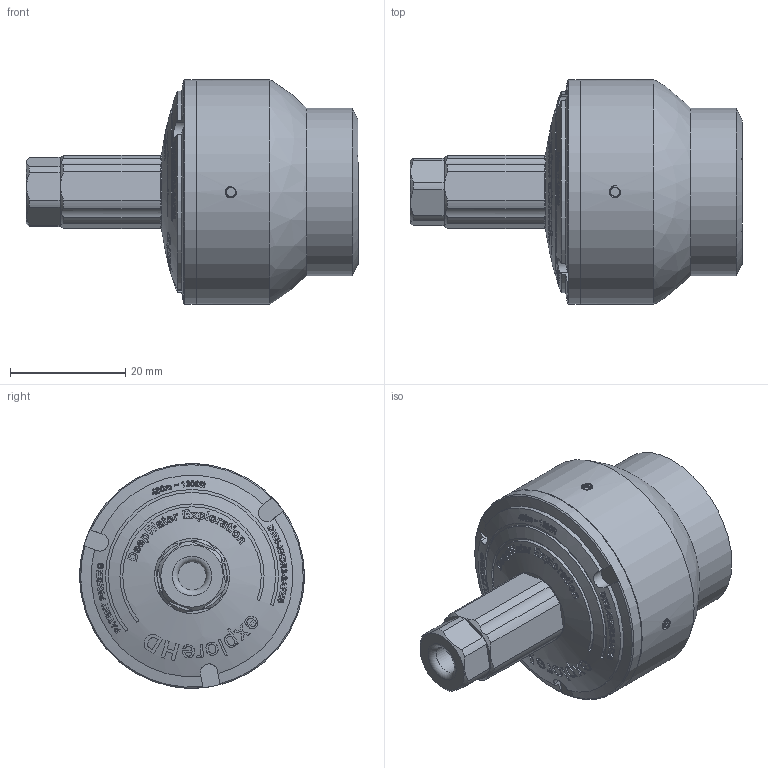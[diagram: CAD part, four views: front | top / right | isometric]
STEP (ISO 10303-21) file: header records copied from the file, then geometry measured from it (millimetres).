
FILE_DESCRIPTION(/* description */ (''),/* implementation_level */ '2;1');
FILE_NAME(/* name */ 'PUBLIC RELEASE - exploreHD WL 4.0 v1.step',/* time_stamp */ '2025-06-10T12:49:59-07:00',/* author */ (''),/* organization */ (''),/* preprocessor_version */ 'ST-DEVELOPER v20.1',/* originating_system */ 'Autodesk Translation Framework v14.4.0.0',/* authorisation */ '');
FILE_SCHEMA (('AUTOMOTIVE_DESIGN { 1 0 10303 214 3 1 1 }'));
Length unit declared in the file: millimetre
Products named in the file (5): PUBLIC RELEASE - exploreHD WL 4.0; 2P Type 3A Body 4H v6; End Cap Type 3A1 v19; End Cap Type 3A1 M6; WLP-M06-4.5MM-PUBLIC
Assembly tree (4 placements, depth 2):
  PUBLIC RELEASE - exploreHD WL 4.0
    2P Type 3A Body 4H v6
    End Cap Type 3A1 v19
    End Cap Type 3A1 M6
    WLP-M06-4.5MM-PUBLIC
Bounding box: 57.58 x 39 x 39 mm (x, y, z)
Volume: 42546.5 mm3; surface area: 12177 mm2
Topology: 5 solids, 6 shells, 2759 faces, 7581 edges, 5047 vertices
Faces by surface type: bspline 1346, plane 1013, sphere 203, cylinder 156, cone 34, torus 7
Full cylindrical faces by diameter (mm): 1.623 x8, 2.074 x8, 3.3 x1, 4.8 x1, 4.817 x8, 4.9 x1, 5.035 x8, 5.9 x7, 6.147 x3, 7 x1, 11 x1, 13 x2, 28 x1, 29 x1, 30.132 x2, 31.85 x1, 39 x3
Entity records: 145483 total; most frequent: CARTESIAN_POINT 82903, ORIENTED_EDGE 15162, DIRECTION 9528, EDGE_CURVE 7581, VERTEX_POINT 5047, AXIS2_PLACEMENT_3D 3515, EDGE_LOOP 2978, B_SPLINE_CURVE_WITH_KNOTS 2935
